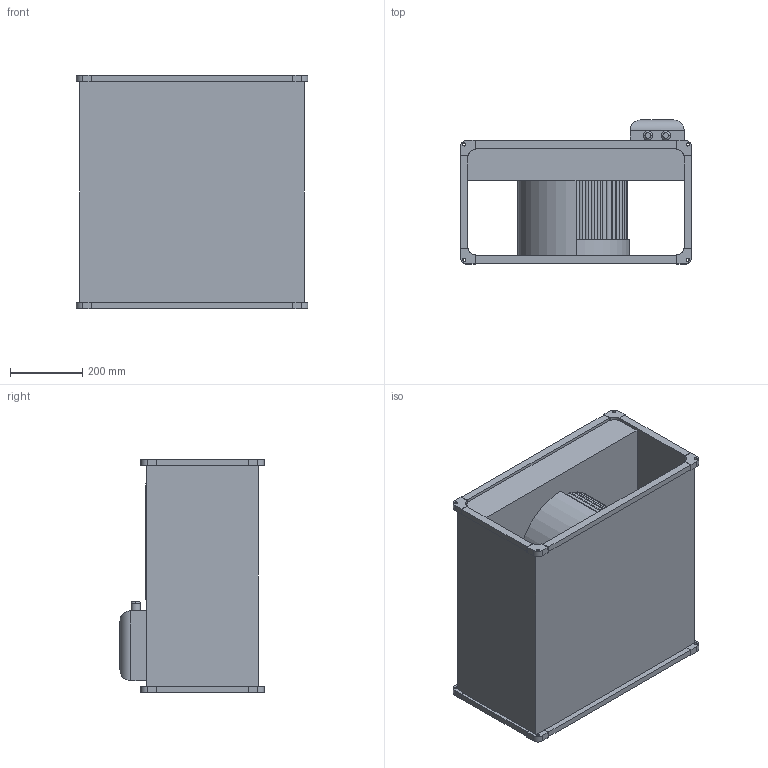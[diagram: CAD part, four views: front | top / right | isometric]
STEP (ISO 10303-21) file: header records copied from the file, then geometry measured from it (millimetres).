
FILE_DESCRIPTION(('STEP AP214'),'1');
FILE_NAME('fan_5132004200.stp','2017-03-31T18:13:14',('TraceParts'),('TraceParts S.A.'),'Spatial InterOp 3D',' ',' ');
FILE_SCHEMA(('automotive_design'));
Length unit declared in the file: millimetre
Products named in the file (1): fan_5132004200
Bounding box: 642 x 400 x 647 mm (x, y, z)
Volume: 59912785.9 mm3; surface area: 2819400.5 mm2
Topology: 1 solids, 1 shells, 257 faces, 754 edges, 502 vertices
Faces by surface type: cylinder 154, plane 99, torus 4
Entity records: 10786 total; most frequent: DIRECTION 1588, CARTESIAN_POINT 1514, ORIENTED_EDGE 1508, EDGE_CURVE 754, AXIS2_PLACEMENT_3D 576, VERTEX_POINT 502, LINE 436, VECTOR 436
